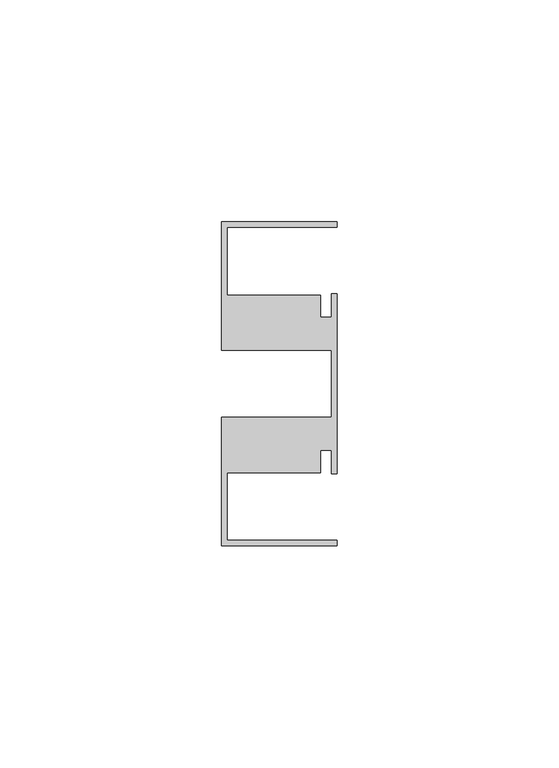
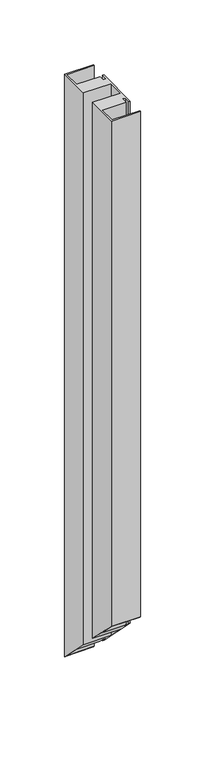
"""IFC4 building model written with IfcOpenShell, lengths in millimetres: member geometry, Прямоугольный импост : 9-AMG-1-Профиль 26Х73 Верх П."""

from ifc_helpers import new_model, si_unit, origin, place, context, project, spatial, faceted_brep, source, transform, mapped, element, save


def member_b6e07821(model_context):
    return source(origin(), model_context, "Body", "Brep", [
        faceted_brep([(-26.0, 36.5, 0.0), (-26.0, 7.5116043, 0.0), (-1.2, 7.5116043, 0.0), (-1.2, -7.5116043, 0.0), (-26.0, -7.5116043, 0.0), (-26.0, -36.5, 0.0), (0.0, -36.5, 0.0), (0.0, -35.3, 0.0), (-24.8, -35.3, 0.0), (-24.8, -20.0, 0.0), (-3.7, -20.0, 0.0), (-3.7, -14.95, 0.0), (-1.2, -14.95, 0.0), (-1.2, -20.3007529, 0.0), (0.0, -20.3007529, 0.0), (0.0, 20.3007529, 0.0), (-1.2, 20.3007529, 0.0), (-1.2, 14.95, 0.0), (-3.7, 14.95, 0.0), (-3.7, 20.0, 0.0), (-24.8, 20.0, 0.0), (-24.8, 35.3, 0.0), (0.0, 35.3, 0.0), (0.0, 36.5, 0.0), (-26.0, 36.5, -550.5), (-26.0, 7.5116043, -521.5116043), (-1.2, 7.5116043, -521.5116043), (-1.2, -7.5116043, -506.4883957), (-26.0, -7.5116043, -506.4883957), (-26.0, -36.5, -477.5), (0.0, -36.5, -477.5), (0.0, -35.3, -478.7), (-24.8, -35.3, -478.7), (-24.8, -20.0, -494.0), (-3.7, -20.0, -494.0), (-3.7, -14.95, -499.05), (-1.2, -14.95, -499.05), (-1.2, -20.3007529, -493.6992471), (0.0, -20.3007529, -493.6992471), (0.0, 20.3007529, -534.3007529), (-1.2, 20.3007529, -534.3007529), (-1.2, 14.95, -528.95), (-3.7, 14.95, -528.95), (-3.7, 20.0, -534.0), (-24.8, 20.0, -534.0), (-24.8, 35.3, -549.3), (0.0, 35.3, -549.3), (0.0, 36.5, -550.5)], [[[0, 1, 2, 3, 4, 5, 6, 7, 8, 9, 10, 11, 12, 13, 14, 15, 16, 17, 18, 19, 20, 21, 22, 23]], [[1, 0, 24, 25]], [[2, 1, 25, 26]], [[3, 2, 26, 27]], [[4, 3, 27, 28]], [[5, 4, 28, 29]], [[6, 5, 29, 30]], [[7, 6, 30, 31]], [[8, 7, 31, 32]], [[9, 8, 32, 33]], [[10, 9, 33, 34]], [[11, 10, 34, 35]], [[12, 11, 35, 36]], [[13, 12, 36, 37]], [[14, 13, 37, 38]], [[15, 14, 38, 39]], [[16, 15, 39, 40]], [[17, 16, 40, 41]], [[18, 17, 41, 42]], [[19, 18, 42, 43]], [[20, 19, 43, 44]], [[21, 20, 44, 45]], [[22, 21, 45, 46]], [[23, 22, 46, 47]], [[0, 23, 47, 24]], [[24, 47, 46, 45, 44, 43, 42, 41, 40, 39, 38, 37, 36, 35, 34, 33, 32, 31, 30, 29, 28, 27, 26, 25]]]),
    ])


if __name__ == "__main__":
    model = new_model("IFC4")
    model_context = context("Model", 3, world=origin())
    ifc_project = project(units=[si_unit("LENGTHUNIT", "METRE", prefix="MILLI")], contexts=[model_context])
    site = spatial("IfcSite", under=ifc_project)
    building = spatial("IfcBuilding", under=site)
    placement = place(None, origin())
    member_shape = member_b6e07821(model_context)
    element("IfcMember", 1, ObjectType="Прямоугольный импост : 9-AMG-1-Профиль 26Х73 Верх П", at=placement, inside=building, context=model_context, shape_type="MappedRepresentation", body=[
        mapped(member_shape, transform((0.0, 0.0, 0.0), x_axis=(1.0, 0.0, 0.0), y_axis=(0.0, 1.0, 0.0), z_axis=(0.0, 0.0, 1.0))),
    ])
    save(model, "model.ifc")
